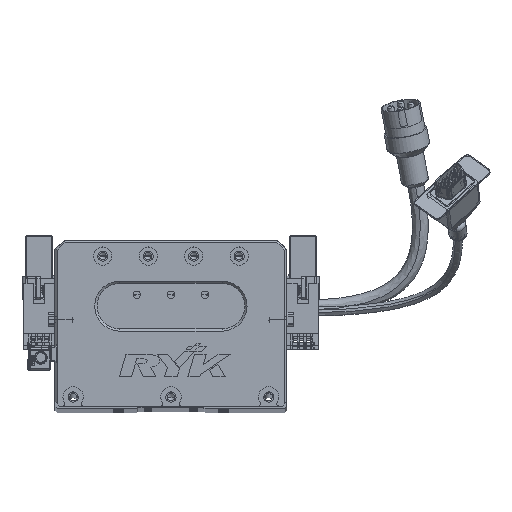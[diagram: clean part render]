
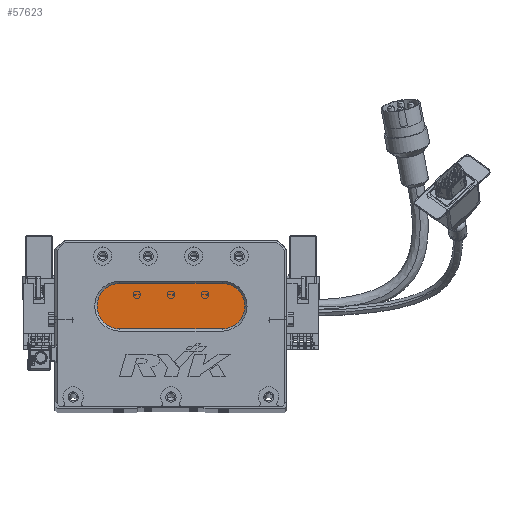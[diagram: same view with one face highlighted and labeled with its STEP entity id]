
A CAD part, top view. The second image highlights one B-rep face of the part: STEP entity #57623.
In plain terms, the highlighted planar face has unit normal (0, 0, 1) as drawn and (0, 0, -1) by its records, which use the part's own axes.
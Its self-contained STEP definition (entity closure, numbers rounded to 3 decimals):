
#4887 = ORIENTED_EDGE ( 'NONE', *, *, #28788, .T. ) ;
#6095 = AXIS2_PLACEMENT_3D ( 'NONE', #39732, #19337, #35099 ) ;
#8502 = ORIENTED_EDGE ( 'NONE', *, *, #66237, .T. ) ;
#10216 = EDGE_CURVE ( 'NONE', #47660, #61503, #25369, .T. ) ;
#14157 = CARTESIAN_POINT ( 'NONE',  ( 73.5, 44., 13. ) ) ;
#14928 = AXIS2_PLACEMENT_3D ( 'NONE', #14157, #66300, #23937 ) ;
#17160 = CARTESIAN_POINT ( 'NONE',  ( 28.5, 44., 13. ) ) ;
#18837 = EDGE_CURVE ( 'NONE', #61471, #26179, #55687, .T. ) ;
#19337 = DIRECTION ( 'NONE',  ( 0., 0., -1. ) ) ;
#19368 = EDGE_CURVE ( 'NONE', #45411, #47660, #42436, .T. ) ;
#21166 = CARTESIAN_POINT ( 'NONE',  ( 73.5, 34., 13. ) ) ;
#21471 = DIRECTION ( 'NONE',  ( 0., 0., -1. ) ) ;
#23730 = DIRECTION ( 'NONE',  ( -1., 0., 0. ) ) ;
#23937 = DIRECTION ( 'NONE',  ( -1., 0., 0. ) ) ;
#23984 = CARTESIAN_POINT ( 'NONE',  ( 28.5, 54., 13. ) ) ;
#25054 = VECTOR ( 'NONE', #23730, 1000. ) ;
#25369 = LINE ( 'NONE', #51028, #41926 ) ;
#26179 = VERTEX_POINT ( 'NONE', #62975 ) ;
#26423 = ORIENTED_EDGE ( 'NONE', *, *, #19368, .T. ) ;
#27822 = AXIS2_PLACEMENT_3D ( 'NONE', #63863, #21471, #52548 ) ;
#27855 = DIRECTION ( 'NONE',  ( -1., 0., 0. ) ) ;
#28788 = EDGE_CURVE ( 'NONE', #26179, #45411, #54051, .T. ) ;
#31324 = CARTESIAN_POINT ( 'NONE',  ( 18.5, 44., 13. ) ) ;
#34827 = AXIS2_PLACEMENT_3D ( 'NONE', #17160, #54267, #27855 ) ;
#35099 = DIRECTION ( 'NONE',  ( -1., 0., 0. ) ) ;
#38804 = CARTESIAN_POINT ( 'NONE',  ( 73.5, 34., 13. ) ) ;
#39732 = CARTESIAN_POINT ( 'NONE',  ( 28.5, 44., 13. ) ) ;
#41926 = VECTOR ( 'NONE', #50808, 1000. ) ;
#42436 = CIRCLE ( 'NONE', #34827, 10. ) ;
#43408 = CARTESIAN_POINT ( 'NONE',  ( 73.5, 54., 13. ) ) ;
#43530 = FACE_OUTER_BOUND ( 'NONE', #51454, .T. ) ;
#44884 = CIRCLE ( 'NONE', #27822, 10. ) ;
#45411 = VERTEX_POINT ( 'NONE', #31324 ) ;
#47660 = VERTEX_POINT ( 'NONE', #23984 ) ;
#50808 = DIRECTION ( 'NONE',  ( 1., 0., 0. ) ) ;
#51028 = CARTESIAN_POINT ( 'NONE',  ( 73.5, 54., 13. ) ) ;
#51384 = ORIENTED_EDGE ( 'NONE', *, *, #10216, .T. ) ;
#51454 = EDGE_LOOP ( 'NONE', ( #8502, #55550, #4887, #26423, #51384 ) ) ;
#52548 = DIRECTION ( 'NONE',  ( -1., 0., 0. ) ) ;
#54051 = CIRCLE ( 'NONE', #6095, 10. ) ;
#54267 = DIRECTION ( 'NONE',  ( 0., 0., -1. ) ) ;
#55550 = ORIENTED_EDGE ( 'NONE', *, *, #18837, .T. ) ;
#55687 = LINE ( 'NONE', #38804, #25054 ) ;
#57623 = ADVANCED_FACE ( 'NONE', ( #43530 ), #66765, .T. ) ;
#61471 = VERTEX_POINT ( 'NONE', #21166 ) ;
#61503 = VERTEX_POINT ( 'NONE', #43408 ) ;
#62975 = CARTESIAN_POINT ( 'NONE',  ( 28.5, 34., 13. ) ) ;
#63863 = CARTESIAN_POINT ( 'NONE',  ( 73.5, 44., 13. ) ) ;
#66237 = EDGE_CURVE ( 'NONE', #61503, #61471, #44884, .T. ) ;
#66300 = DIRECTION ( 'NONE',  ( 0., 0., -1. ) ) ;
#66765 = PLANE ( 'NONE',  #14928 ) ;
